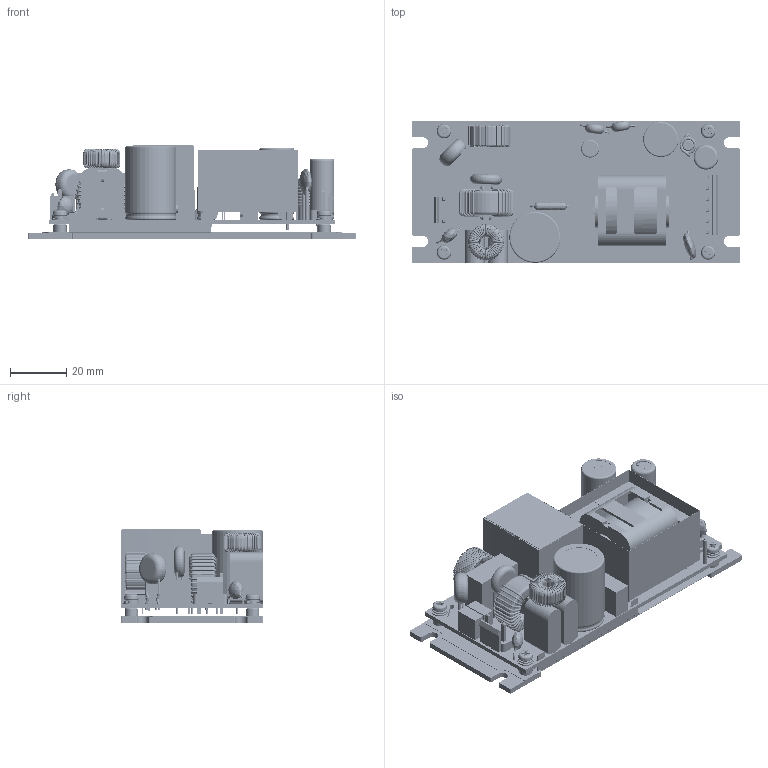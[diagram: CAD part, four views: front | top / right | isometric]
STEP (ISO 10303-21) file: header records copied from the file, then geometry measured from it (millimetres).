
FILE_DESCRIPTION (( 'STEP AP203' ), '1' );
FILE_NAME ('CFM150SXXX-B ¦¨«~¹Ï (M-B090-F)V1.2-1131101.STEP', '2024-11-01T03:51:11', ( 'cincon' ), ( '' ), 'SwSTEP 2.0', 'SolidWorks 2020', '' );
FILE_SCHEMA (( 'CONFIG_CONTROL_DESIGN' ));
Length unit declared in the file: millimetre
Products named in the file (28): CFM06 CY1-1060425; CFM150S 6.8mm電容(參考)-1080225; VR1; CFM150S CORE-1070906; CFM260 六角銅柱M3x5mm-1070907; CFM150S變壓器; CFM150SXXX-B 成品圖 (M-B090-F)V1.2-1131101; CFM150S CY2-1080709; CFM150S-B 絕緣片G612914B904-1080403_成形; G7424005618 PVHI-03N22 PIN(3孔)插座示意圖 2020.01.31; CFM260鋁板散熱片 G6612610421 (M-B150-00-J)-1071130; CFM150S PCB-1080709; M3x6mm圓頭十字螺絲SMP+2W-1021126; CFM150S電容 8x21-1080709; CFM150M變壓器A-1080225; CFM150S Z1-1070906; Electrolitic Capacitor Radial 18.2X26.2; Electrolitic Capacitor Radial (6.5X12); CFM150S L3-1080225; CFM150M LF2-1070906; CFM80M120 6PIN插座; CFM150S CORE-2; CFM150STH1 示意圖; CFM150S PCB-1110715; Electrolitic Capacitor Radial(黑) 12.5X25.5; CFM150SXXX 成品圖 (M-B089-F)V1.0-1130215; CFM150S Axial0_4_3K3-1080225
Assembly tree (35 placements, depth 3):
  CFM150SXXX-B 成品圖 (M-B090-F)V1.2-1131101
    CFM150SXXX 成品圖 (M-B089-F)V1.0-1130215
      CFM150M變壓器A-1080225
      CFM80M120 6PIN插座
      CFM150S電容 8x21-1080709
      Electrolitic Capacitor Radial(黑) 12.5X25.5
      Electrolitic Capacitor Radial 18.2X26.2
      CFM150M LF2-1070906
      VR1
      CFM150S CORE-1070906
      CFM150S Axial0_4_3K3-1080225
      Electrolitic Capacitor Radial (6.5X12)
      CFM150STH1 示意圖
      CFM150S L3-1080225
      CFM150S變壓器
      CFM150S 6.8mm電容(參考)-1080225  x2
      CFM150S Z1-1070906
      CFM150S CY2-1080709
      CFM150S CORE-2
      CFM06 CY1-1060425
      CFM150S PCB-1080709
      CFM150S PCB-1110715
      G7424005618 PVHI-03N22 PIN(3孔)插座示意圖 2020.01.31
    CFM260鋁板散熱片 G6612610421 (M-B150-00-J)-1071130
      CFM260鋁板散熱片 G6612610421 (M-B150-00-J)-1071130
      CFM260 六角銅柱M3x5mm-1070907  x4
    M3x6mm圓頭十字螺絲SMP+2W-1021126  x4
    CFM150S-B 絕緣片G612914B904-1080403_成形
    G7424005618 PVHI-03N22 PIN(3孔)插座示意圖 2020.01.31
Bounding box: 116.8 x 50.81 x 33.1 mm (x, y, z)
Volume: 91565.8 mm3; surface area: 91631.2 mm2
Topology: 42 solids, 114 shells, 4969 faces, 14256 edges, 9260 vertices
Faces by surface type: cylinder 1966, plane 1327, torus 952, bspline 674, cone 50
Entity records: 191498 total; most frequent: CARTESIAN_POINT 71903, ORIENTED_EDGE 26280, DIRECTION 24103, EDGE_CURVE 13144, AXIS2_PLACEMENT_3D 9840, VERTEX_POINT 8531, CIRCLE 5877, EDGE_LOOP 4745
